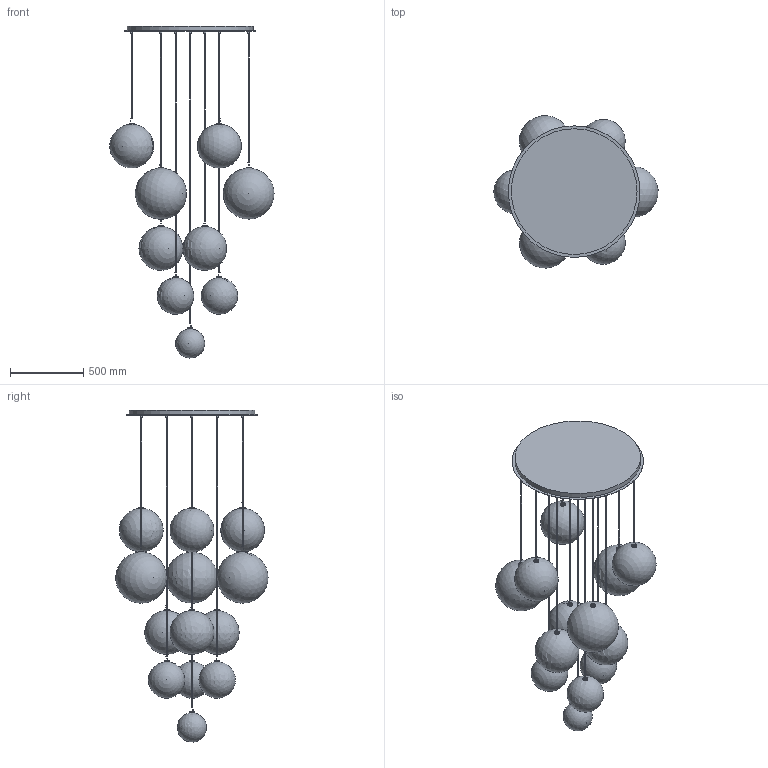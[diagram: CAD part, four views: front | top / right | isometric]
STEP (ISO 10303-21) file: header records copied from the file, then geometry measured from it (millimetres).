
FILE_DESCRIPTION(/* description */ (''),/* implementation_level */ '2;1');
FILE_NAME(/* name */ 'T:\B193 Glass Globe Cluster 13 Chandelier\Pliki bryłowe handlowe\B193 Cluster 13 Mix 3D files\B193 Cluster 13 Mix.stp',/* time_stamp */ '2022-01-25T15:43:37+01:00',/* author */ ('Mariusz Awariusz'),/* organization */ (''),/* preprocessor_version */ 'ST-DEVELOPER v18.1',/* originating_system */ 'Autodesk Inventor 2022',/* authorisation */ '');
FILE_SCHEMA (('AUTOMOTIVE_DESIGN { 1 0 10303 214 3 1 1 }'));
Length unit declared in the file: millimetre
Products named in the file (1): B193 Glass Globe Cluster 13 CE v9_na potrzeby plików 3D_2_jako cz
ęść
Bounding box: 1122.78 x 1040.74 x 2270.72 mm (x, y, z)
Volume: 28500721.2 mm3; surface area: 8797029.4 mm2
Topology: 1 solids, 27 shells, 487 faces, 1010 edges, 656 vertices
Faces by surface type: plane 159, cylinder 146, cone 117, torus 26, sphere 26, bspline 13
Full cylindrical faces by diameter (mm): 7 x13, 11 x13, 13 x52, 19.8 x13, 33 x13, 35 x13, 860 x1, 900 x1
Entity records: 13536 total; most frequent: CARTESIAN_POINT 3007, DIRECTION 2406, ORIENTED_EDGE 1916, AXIS2_PLACEMENT_3D 1065, EDGE_CURVE 958, VERTEX_POINT 656, EDGE_LOOP 644, CIRCLE 564
